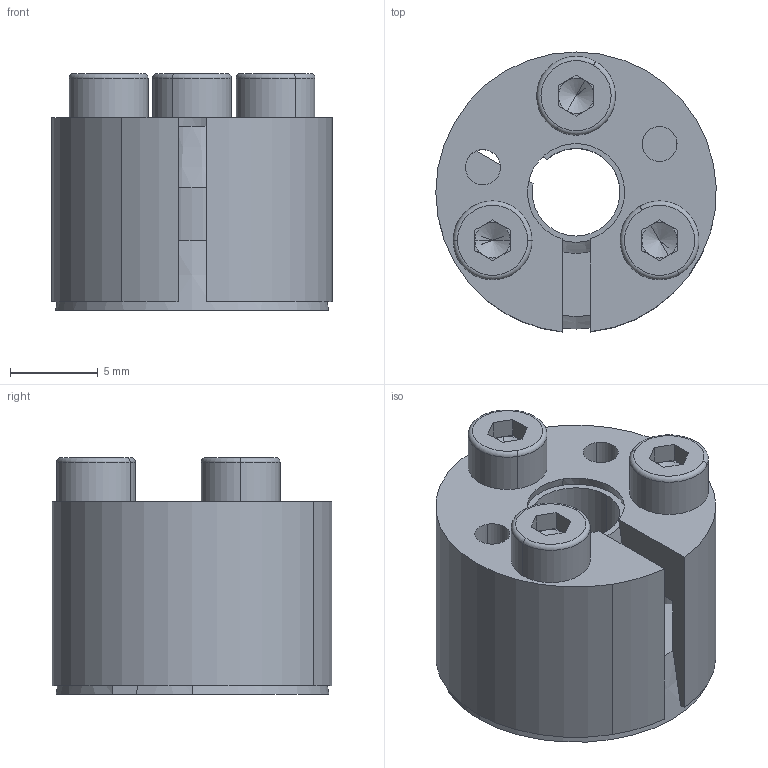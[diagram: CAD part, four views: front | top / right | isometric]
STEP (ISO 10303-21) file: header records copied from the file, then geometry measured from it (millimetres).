
FILE_DESCRIPTION (( 'STEP AP214' ), '1' );
FILE_NAME ('CONEX-K-5x16.step', '2013-04-06T13:20:04', ( 'Pc' ), ( '' ), 'SwSTEP 2.0', 'SolidWorks 2013', '' );
FILE_SCHEMA (( 'AUTOMOTIVE_DESIGN' ));
Length unit declared in the file: millimetre
Products named in the file (1): CONEX-K-5x16
Bounding box: 15.99 x 15.96 x 13.49 mm (x, y, z)
Volume: 1609.8 mm3; surface area: 2614.1 mm2
Topology: 5 solids, 5 shells, 131 faces, 308 edges, 187 vertices
Faces by surface type: plane 55, cylinder 40, cone 24, torus 12
Entity records: 5269 total; most frequent: DIRECTION 704, CARTESIAN_POINT 645, ORIENTED_EDGE 604, EDGE_CURVE 302, AXIS2_PLACEMENT_3D 278, VERTEX_POINT 187, EDGE_LOOP 153, VECTOR 148
